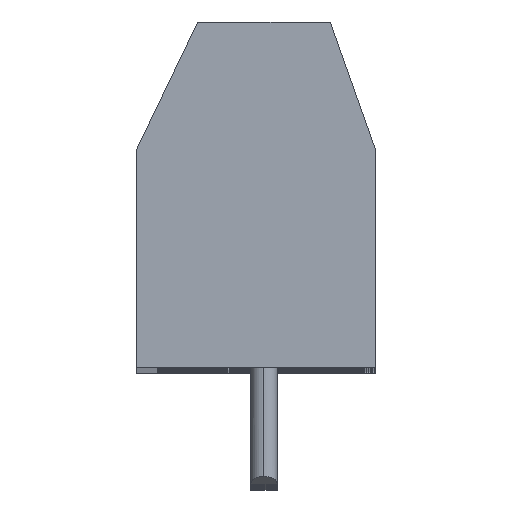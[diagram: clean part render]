
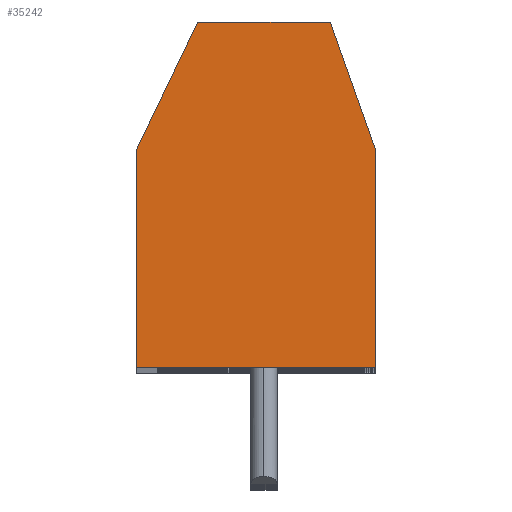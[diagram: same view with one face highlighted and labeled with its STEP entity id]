
A CAD part, top view. The second image highlights one B-rep face of the part: STEP entity #35242.
In plain terms, the highlighted planar face has unit normal (0, 0, 1).
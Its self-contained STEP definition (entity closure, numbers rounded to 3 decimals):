
#3283 = CARTESIAN_POINT ( 'NONE',  ( -6.477, -5.227, 0. ) ) ;
#3341 = DIRECTION ( 'NONE',  ( 1., 0., 0. ) ) ;
#3342 = VECTOR ( 'NONE', #3341, 1000. ) ;
#3343 = CARTESIAN_POINT ( 'NONE',  ( -6.477, -5.227, 0. ) ) ;
#3344 = LINE ( 'NONE', #3343, #3342 ) ;
#3345 = CARTESIAN_POINT ( 'NONE',  ( 2.523, -5.227, 0. ) ) ;
#3365 = CARTESIAN_POINT ( 'NONE',  ( 2.523, 2.973, 0. ) ) ;
#3366 = DIRECTION ( 'NONE',  ( 0., 1., 0. ) ) ;
#3367 = VECTOR ( 'NONE', #3366, 1000. ) ;
#3368 = CARTESIAN_POINT ( 'NONE',  ( 2.523, -5.227, 0. ) ) ;
#3369 = LINE ( 'NONE', #3368, #3367 ) ;
#3456 = CARTESIAN_POINT ( 'NONE',  ( -6.477, 2.973, 0. ) ) ;
#3457 = DIRECTION ( 'NONE',  ( 0., -1., 0. ) ) ;
#3458 = VECTOR ( 'NONE', #3457, 1000. ) ;
#3459 = CARTESIAN_POINT ( 'NONE',  ( -6.477, 1.273, 0. ) ) ;
#3460 = LINE ( 'NONE', #3459, #3458 ) ;
#6228 = DIRECTION ( 'NONE',  ( -0.432, -0.902, 0. ) ) ;
#6229 = VECTOR ( 'NONE', #6228, 1000. ) ;
#6230 = CARTESIAN_POINT ( 'NONE',  ( -5.327, 5.373, 0. ) ) ;
#6231 = LINE ( 'NONE', #6230, #6229 ) ;
#6259 = CARTESIAN_POINT ( 'NONE',  ( -4.177, 7.773, 0. ) ) ;
#6260 = DIRECTION ( 'NONE',  ( -1., 0., 0. ) ) ;
#6261 = VECTOR ( 'NONE', #6260, 1000. ) ;
#6262 = CARTESIAN_POINT ( 'NONE',  ( -1.677, 7.773, 0. ) ) ;
#6263 = LINE ( 'NONE', #6262, #6261 ) ;
#6264 = DIRECTION ( 'NONE',  ( 1., 0., 0. ) ) ;
#6265 = DIRECTION ( 'NONE',  ( 0., 0., 1. ) ) ;
#6266 = CARTESIAN_POINT ( 'NONE',  ( -6.477, -5.227, 0. ) ) ;
#6267 = AXIS2_PLACEMENT_3D ( 'NONE', #6266, #6265, #6264 ) ;
#6268 = PLANE ( 'NONE',  #6267 ) ;
#6269 = FACE_OUTER_BOUND ( 'NONE', #35243, .T. ) ;
#6274 = CARTESIAN_POINT ( 'NONE',  ( 0.823, 7.773, 0. ) ) ;
#6275 = DIRECTION ( 'NONE',  ( -0.334, 0.943, 0. ) ) ;
#6276 = VECTOR ( 'NONE', #6275, 1000. ) ;
#6277 = CARTESIAN_POINT ( 'NONE',  ( 2.523, 2.973, 0. ) ) ;
#6278 = LINE ( 'NONE', #6277, #6276 ) ;
#33583 = VERTEX_POINT ( 'NONE', #3283 ) ;
#33728 = VERTEX_POINT ( 'NONE', #3345 ) ;
#33730 = EDGE_CURVE ( 'NONE', #33583, #33728, #3344, .T. ) ;
#33847 = EDGE_CURVE ( 'NONE', #33728, #33848, #3369, .T. ) ;
#33848 = VERTEX_POINT ( 'NONE', #3365 ) ;
#33993 = EDGE_CURVE ( 'NONE', #33994, #33583, #3460, .T. ) ;
#33994 = VERTEX_POINT ( 'NONE', #3456 ) ;
#35224 = EDGE_CURVE ( 'NONE', #35247, #33994, #6231, .T. ) ;
#35225 = ORIENTED_EDGE ( 'NONE', *, *, #33993, .T. ) ;
#35226 = ORIENTED_EDGE ( 'NONE', *, *, #33730, .T. ) ;
#35227 = ORIENTED_EDGE ( 'NONE', *, *, #33847, .T. ) ;
#35236 = EDGE_CURVE ( 'NONE', #33848, #35237, #6278, .T. ) ;
#35237 = VERTEX_POINT ( 'NONE', #6274 ) ;
#35242 = ADVANCED_FACE ( 'NONE', ( #6269 ), #6268, .T. ) ;
#35243 = EDGE_LOOP ( 'NONE', ( #35244, #35245, #35248, #35225, #35226, #35227 ) ) ;
#35244 = ORIENTED_EDGE ( 'NONE', *, *, #35236, .T. ) ;
#35245 = ORIENTED_EDGE ( 'NONE', *, *, #35246, .T. ) ;
#35246 = EDGE_CURVE ( 'NONE', #35237, #35247, #6263, .T. ) ;
#35247 = VERTEX_POINT ( 'NONE', #6259 ) ;
#35248 = ORIENTED_EDGE ( 'NONE', *, *, #35224, .T. ) ;
